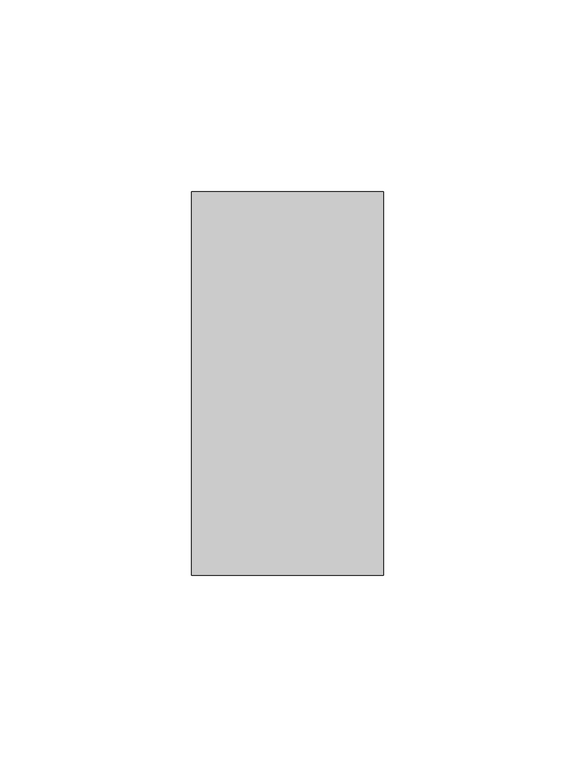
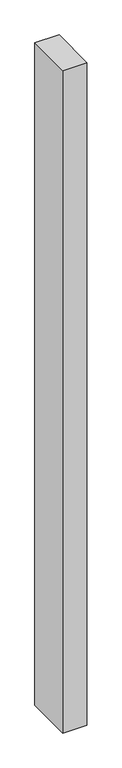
"""IFC4 building model written with IfcOpenShell, lengths in millimetres: member geometry, Прямоугольный импост : 50х100."""

from ifc_helpers import new_model, si_unit, frame, origin, place, context, project, spatial, polyline, outline, extrude, source, transform, mapped, element, save


def member_f6ba3ffe(model_context):
    return source(origin(), model_context, "Body", "SweptSolid", [
        extrude(outline(polyline([(25.0, 50.0), (25.0, -50.0), (-25.0, -50.0), (-25.0, 50.0), (25.0, 50.0)])), frame((0.0, 0.0, -1450.0), z_axis=(0.0, 0.0, 1.0), x_axis=(1.0, 0.0, 0.0)), (0.0, 0.0, 1.0), 1450.0),
    ])


if __name__ == "__main__":
    model = new_model("IFC4")
    model_context = context("Model", 3, world=origin())
    ifc_project = project(units=[si_unit("LENGTHUNIT", "METRE", prefix="MILLI")], contexts=[model_context])
    site = spatial("IfcSite", under=ifc_project)
    building = spatial("IfcBuilding", under=site)
    placement = place(None, origin())
    member_shape = member_f6ba3ffe(model_context)
    element("IfcMember", 1, ObjectType="Прямоугольный импост : 50х100", at=placement, inside=building, context=model_context, shape_type="MappedRepresentation", body=[
        mapped(member_shape, transform((0.0, 0.0, 0.0), x_axis=(1.0, 0.0, 0.0), y_axis=(0.0, 1.0, 0.0), z_axis=(0.0, 0.0, 1.0))),
    ])
    save(model, "model.ifc")
